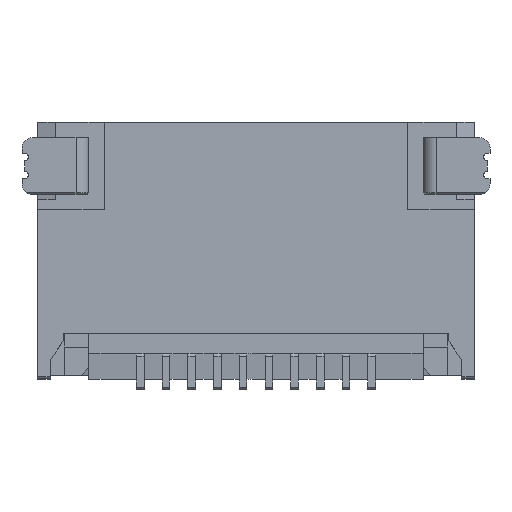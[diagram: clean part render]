
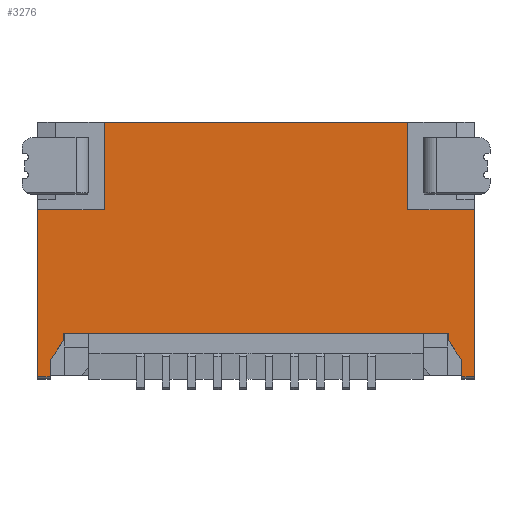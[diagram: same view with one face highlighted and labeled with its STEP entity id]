
A CAD part, front view. The second image highlights one B-rep face of the part: STEP entity #3276.
In plain terms, the highlighted planar face has unit normal (0, -1, 0).
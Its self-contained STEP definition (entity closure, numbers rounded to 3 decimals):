
#418 = ORIENTED_EDGE ( 'NONE', *, *, #5446, .F. ) ;
#419 = ORIENTED_EDGE ( 'NONE', *, *, #5447, .F. ) ;
#421 = ORIENTED_EDGE ( 'NONE', *, *, #5448, .F. ) ;
#422 = ORIENTED_EDGE ( 'NONE', *, *, #5449, .F. ) ;
#423 = ORIENTED_EDGE ( 'NONE', *, *, #5450, .T. ) ;
#424 = ORIENTED_EDGE ( 'NONE', *, *, #5451, .F. ) ;
#425 = ORIENTED_EDGE ( 'NONE', *, *, #5452, .F. ) ;
#426 = ORIENTED_EDGE ( 'NONE', *, *, #5453, .T. ) ;
#428 = ORIENTED_EDGE ( 'NONE', *, *, #5454, .F. ) ;
#429 = ORIENTED_EDGE ( 'NONE', *, *, #5457, .F. ) ;
#430 = ORIENTED_EDGE ( 'NONE', *, *, #5455, .T. ) ;
#431 = ORIENTED_EDGE ( 'NONE', *, *, #5458, .T. ) ;
#432 = ORIENTED_EDGE ( 'NONE', *, *, #5456, .F. ) ;
#433 = ORIENTED_EDGE ( 'NONE', *, *, #5462, .T. ) ;
#434 = ORIENTED_EDGE ( 'NONE', *, *, #5466, .T. ) ;
#437 = ORIENTED_EDGE ( 'NONE', *, *, #5441, .T. ) ;
#642 = EDGE_LOOP ( 'NONE', ( #418, #419, #421, #422, #423, #424, #425, #426, #428, #429, #430, #431, #432, #433, #434, #437 ) ) ;
#1206 = VERTEX_POINT ( 'NONE', #7239 ) ;
#1211 = VERTEX_POINT ( 'NONE', #7241 ) ;
#1214 = VERTEX_POINT ( 'NONE', #7244 ) ;
#1219 = VERTEX_POINT ( 'NONE', #7249 ) ;
#1224 = VERTEX_POINT ( 'NONE', #7254 ) ;
#1232 = VERTEX_POINT ( 'NONE', #7262 ) ;
#1234 = VERTEX_POINT ( 'NONE', #7264 ) ;
#1239 = VERTEX_POINT ( 'NONE', #7269 ) ;
#1241 = VERTEX_POINT ( 'NONE', #7271 ) ;
#1242 = VERTEX_POINT ( 'NONE', #7272 ) ;
#1243 = VERTEX_POINT ( 'NONE', #7273 ) ;
#1284 = VERTEX_POINT ( 'NONE', #7314 ) ;
#1310 = VERTEX_POINT ( 'NONE', #7340 ) ;
#3276 = ADVANCED_FACE ( 'NONE', ( #3762 ), #3763, .F. ) ;
#3754 = CARTESIAN_POINT ( 'NONE',  ( 7.5, 0.05, 0.65 ) ) ;
#3762 = FACE_OUTER_BOUND ( 'NONE', #642, .T. ) ;
#3763 = PLANE ( 'NONE',  #5027 ) ;
#3765 = DIRECTION ( 'NONE',  ( 0., 1., 0. ) ) ;
#3766 = DIRECTION ( 'NONE',  ( 0., 0., 1. ) ) ;
#4656 = VECTOR ( 'NONE', #6085, 1000. ) ;
#4661 = VECTOR ( 'NONE', #6112, 1000. ) ;
#4662 = VECTOR ( 'NONE', #6100, 1000. ) ;
#4663 = VECTOR ( 'NONE', #6103, 1000. ) ;
#4664 = VECTOR ( 'NONE', #6106, 1000. ) ;
#4665 = VECTOR ( 'NONE', #6110, 1000. ) ;
#4666 = VECTOR ( 'NONE', #6121, 1000. ) ;
#4667 = VECTOR ( 'NONE', #6115, 1000. ) ;
#4668 = VECTOR ( 'NONE', #6119, 1000. ) ;
#4669 = VECTOR ( 'NONE', #6133, 1000. ) ;
#4670 = VECTOR ( 'NONE', #6124, 1000. ) ;
#4671 = VECTOR ( 'NONE', #6127, 1000. ) ;
#4672 = VECTOR ( 'NONE', #6131, 1000. ) ;
#4674 = VECTOR ( 'NONE', #6136, 1000. ) ;
#4679 = VECTOR ( 'NONE', #6147, 1000. ) ;
#4683 = VECTOR ( 'NONE', #6159, 1000. ) ;
#5027 = AXIS2_PLACEMENT_3D ( 'NONE', #3754, #3765, #3766 ) ;
#5441 = EDGE_CURVE ( 'NONE', #1224, #1232, #6082, .T. ) ;
#5446 = EDGE_CURVE ( 'NONE', #1310, #1232, #6098, .T. ) ;
#5447 = EDGE_CURVE ( 'NONE', #1242, #1310, #6101, .T. ) ;
#5448 = EDGE_CURVE ( 'NONE', #1243, #1242, #6104, .T. ) ;
#5449 = EDGE_CURVE ( 'NONE', #1284, #1243, #6107, .T. ) ;
#5450 = EDGE_CURVE ( 'NONE', #1284, #5820, #6089, .T. ) ;
#5451 = EDGE_CURVE ( 'NONE', #1214, #5820, #6113, .T. ) ;
#5452 = EDGE_CURVE ( 'NONE', #1239, #1214, #6116, .T. ) ;
#5453 = EDGE_CURVE ( 'NONE', #1239, #1219, #6094, .T. ) ;
#5454 = EDGE_CURVE ( 'NONE', #1234, #1219, #6122, .T. ) ;
#5455 = EDGE_CURVE ( 'NONE', #1211, #1206, #6125, .T. ) ;
#5456 = EDGE_CURVE ( 'NONE', #1241, #5854, #6128, .T. ) ;
#5457 = EDGE_CURVE ( 'NONE', #1211, #1234, #6108, .T. ) ;
#5458 = EDGE_CURVE ( 'NONE', #1206, #5854, #6134, .T. ) ;
#5462 = EDGE_CURVE ( 'NONE', #1241, #5819, #6145, .T. ) ;
#5466 = EDGE_CURVE ( 'NONE', #5819, #1224, #6157, .T. ) ;
#5819 = VERTEX_POINT ( 'NONE', #7567 ) ;
#5820 = VERTEX_POINT ( 'NONE', #7579 ) ;
#5854 = VERTEX_POINT ( 'NONE', #7586 ) ;
#6082 = LINE ( 'NONE', #6084, #4656 ) ;
#6084 = CARTESIAN_POINT ( 'NONE',  ( -3.75, 0.05, 1.125 ) ) ;
#6085 = DIRECTION ( 'NONE',  ( 0., 0., 1. ) ) ;
#6089 = LINE ( 'NONE', #6111, #4661 ) ;
#6094 = LINE ( 'NONE', #6120, #4666 ) ;
#6098 = LINE ( 'NONE', #6099, #4662 ) ;
#6099 = CARTESIAN_POINT ( 'NONE',  ( -2.165, 0.05, 1.1 ) ) ;
#6100 = DIRECTION ( 'NONE',  ( -1., 0., 0. ) ) ;
#6101 = LINE ( 'NONE', #6102, #4663 ) ;
#6102 = CARTESIAN_POINT ( 'NONE',  ( 3.75, 0.05, 1.125 ) ) ;
#6103 = DIRECTION ( 'NONE',  ( 0., 0., 1. ) ) ;
#6104 = LINE ( 'NONE', #6105, #4664 ) ;
#6105 = CARTESIAN_POINT ( 'NONE',  ( 3.75, 0.05, 0.95 ) ) ;
#6106 = DIRECTION ( 'NONE',  ( -0.555, 0., 0.832 ) ) ;
#6107 = LINE ( 'NONE', #6109, #4665 ) ;
#6108 = LINE ( 'NONE', #6132, #4669 ) ;
#6109 = CARTESIAN_POINT ( 'NONE',  ( 4., 0.05, 0.248 ) ) ;
#6110 = DIRECTION ( 'NONE',  ( 0., 0., 1. ) ) ;
#6111 = CARTESIAN_POINT ( 'NONE',  ( 4., 0.05, 0.248 ) ) ;
#6112 = DIRECTION ( 'NONE',  ( 1., 0., 0. ) ) ;
#6113 = LINE ( 'NONE', #6114, #4667 ) ;
#6114 = CARTESIAN_POINT ( 'NONE',  ( 4.25, 0.05, 0.65 ) ) ;
#6115 = DIRECTION ( 'NONE',  ( 0., 0., -1. ) ) ;
#6116 = LINE ( 'NONE', #6118, #4668 ) ;
#6118 = CARTESIAN_POINT ( 'NONE',  ( 2.95, 0.05, 3.5 ) ) ;
#6119 = DIRECTION ( 'NONE',  ( 1., 0., 0. ) ) ;
#6120 = CARTESIAN_POINT ( 'NONE',  ( 2.95, 0.05, 3.5 ) ) ;
#6121 = DIRECTION ( 'NONE',  ( 0., 0., 1. ) ) ;
#6122 = LINE ( 'NONE', #6123, #4670 ) ;
#6123 = CARTESIAN_POINT ( 'NONE',  ( 17.95, 0.05, 5.2 ) ) ;
#6124 = DIRECTION ( 'NONE',  ( 1., 0., 0. ) ) ;
#6125 = LINE ( 'NONE', #6126, #4671 ) ;
#6126 = CARTESIAN_POINT ( 'NONE',  ( -2.95, 0.05, 3.5 ) ) ;
#6127 = DIRECTION ( 'NONE',  ( -1., 0., 0. ) ) ;
#6128 = LINE ( 'NONE', #6130, #4672 ) ;
#6130 = CARTESIAN_POINT ( 'NONE',  ( -4., 0.05, 0.248 ) ) ;
#6131 = DIRECTION ( 'NONE',  ( -1., 0., 0. ) ) ;
#6132 = CARTESIAN_POINT ( 'NONE',  ( -2.95, 0.05, 3.5 ) ) ;
#6133 = DIRECTION ( 'NONE',  ( 0., 0., 1. ) ) ;
#6134 = LINE ( 'NONE', #6135, #4674 ) ;
#6135 = CARTESIAN_POINT ( 'NONE',  ( -4.25, 0.05, 0.65 ) ) ;
#6136 = DIRECTION ( 'NONE',  ( 0., 0., -1. ) ) ;
#6145 = LINE ( 'NONE', #6146, #4679 ) ;
#6146 = CARTESIAN_POINT ( 'NONE',  ( -4., 0.05, 0.248 ) ) ;
#6147 = DIRECTION ( 'NONE',  ( 0., 0., 1. ) ) ;
#6157 = LINE ( 'NONE', #6158, #4683 ) ;
#6158 = CARTESIAN_POINT ( 'NONE',  ( -3.75, 0.05, 0.95 ) ) ;
#6159 = DIRECTION ( 'NONE',  ( 0.555, 0., 0.832 ) ) ;
#7239 = CARTESIAN_POINT ( 'NONE',  ( -4.25, 0.05, 3.5 ) ) ;
#7241 = CARTESIAN_POINT ( 'NONE',  ( -2.95, 0.05, 3.5 ) ) ;
#7244 = CARTESIAN_POINT ( 'NONE',  ( 4.25, 0.05, 3.5 ) ) ;
#7249 = CARTESIAN_POINT ( 'NONE',  ( 2.95, 0.05, 5.2 ) ) ;
#7254 = CARTESIAN_POINT ( 'NONE',  ( -3.75, 0.05, 0.95 ) ) ;
#7262 = CARTESIAN_POINT ( 'NONE',  ( -3.75, 0.05, 1.1 ) ) ;
#7264 = CARTESIAN_POINT ( 'NONE',  ( -2.95, 0.05, 5.2 ) ) ;
#7269 = CARTESIAN_POINT ( 'NONE',  ( 2.95, 0.05, 3.5 ) ) ;
#7271 = CARTESIAN_POINT ( 'NONE',  ( -4., 0.05, 0.248 ) ) ;
#7272 = CARTESIAN_POINT ( 'NONE',  ( 3.75, 0.05, 0.95 ) ) ;
#7273 = CARTESIAN_POINT ( 'NONE',  ( 4., 0.05, 0.575 ) ) ;
#7314 = CARTESIAN_POINT ( 'NONE',  ( 4., 0.05, 0.248 ) ) ;
#7340 = CARTESIAN_POINT ( 'NONE',  ( 3.75, 0.05, 1.1 ) ) ;
#7567 = CARTESIAN_POINT ( 'NONE',  ( -4., 0.05, 0.575 ) ) ;
#7579 = CARTESIAN_POINT ( 'NONE',  ( 4.25, 0.05, 0.248 ) ) ;
#7586 = CARTESIAN_POINT ( 'NONE',  ( -4.25, 0.05, 0.248 ) ) ;
